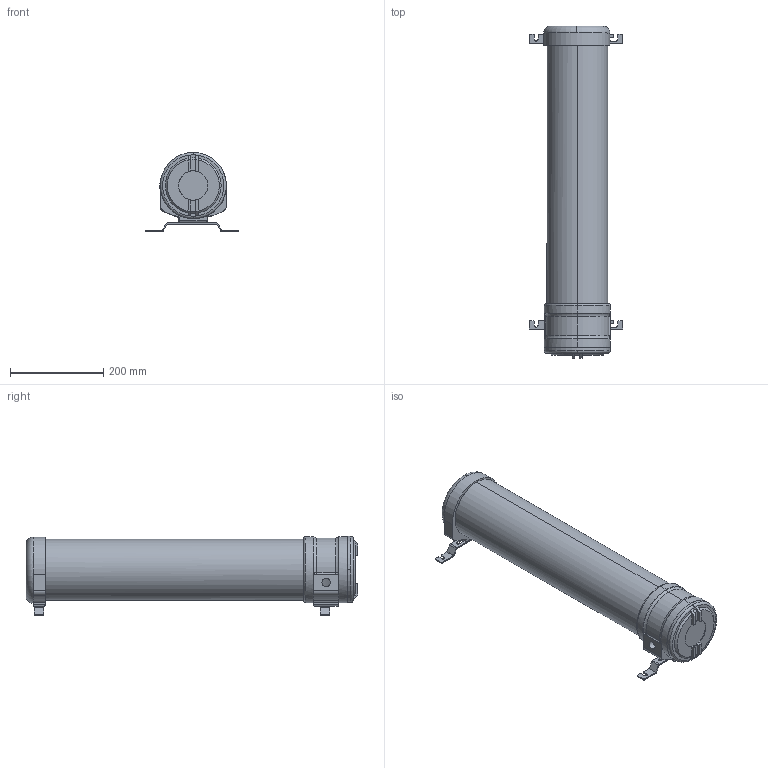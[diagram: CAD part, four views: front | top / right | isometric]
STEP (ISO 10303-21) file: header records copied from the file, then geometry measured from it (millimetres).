
FILE_DESCRIPTION (( 'STEP AP203' ), '1' );
FILE_NAME ('ZNF.2X18 - Katý- Step.STEP', '2021-05-04T10:13:12', ( '' ), ( '' ), 'SwSTEP 2.0', 'SolidWorks 2020', '' );
FILE_SCHEMA (( 'CONFIG_CONTROL_DESIGN' ));
Length unit declared in the file: millimetre
Products named in the file (1): ZNF.2X18 - Katý- Step
Bounding box: 200 x 713.45 x 170 mm (x, y, z)
Volume: 9582549.4 mm3; surface area: 472453.5 mm2
Topology: 4 solids, 4 shells, 341 faces, 854 edges, 538 vertices
Faces by surface type: cylinder 158, plane 153, bspline 12, torus 10, cone 8
Entity records: 13656 total; most frequent: CARTESIAN_POINT 5443, DIRECTION 1729, ORIENTED_EDGE 1708, EDGE_CURVE 854, AXIS2_PLACEMENT_3D 638, VERTEX_POINT 538, VECTOR 453, LINE 453
